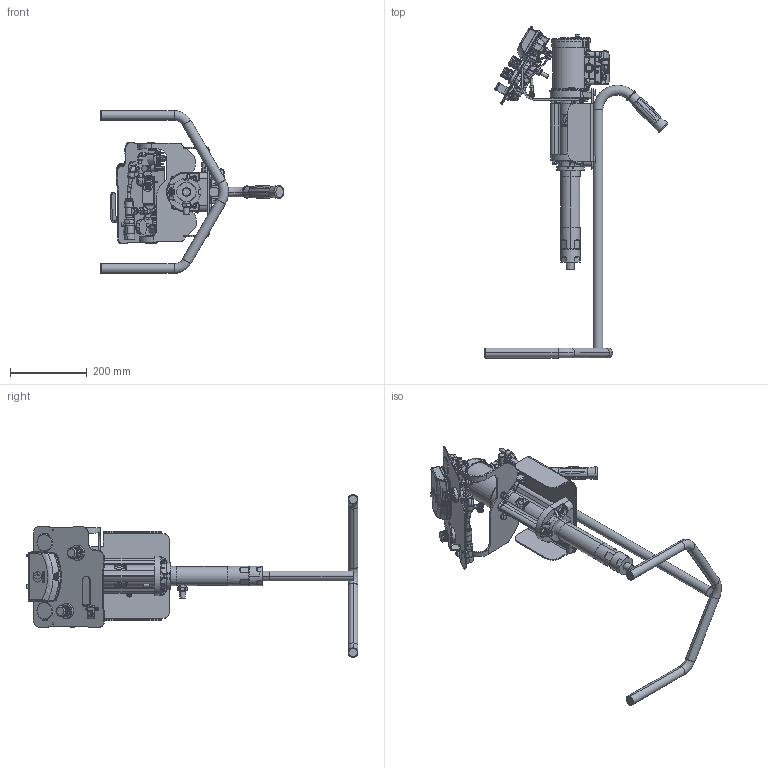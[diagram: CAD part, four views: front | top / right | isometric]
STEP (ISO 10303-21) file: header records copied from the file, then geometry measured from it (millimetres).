
FILE_DESCRIPTION((''),'2;1');
FILE_NAME('G15T01-EN-L_PRT','2020-03-05T07:51:52',('qusrh3'),(''),'CREO PARAMETRIC BY PTC INC, 2019030','CREO PARAMETRIC BY PTC INC, 2019030','');
FILE_SCHEMA(('CONFIG_CONTROL_DESIGN'));
Products named in the file (1): G15T01-EN-L_PRT
Bounding box: 479.36 x 866.05 x 425.4 mm (x, y, z)
Surface area: 920856 mm2 (no closed solid volume)
Topology: 0 solids, 328 shells, 3605 faces, 10888 edges, 7341 vertices
Faces by surface type: plane 1157, cylinder 893, bspline 662, cone 465, torus 316, extrusion 62, sphere 50
Entity records: 166089 total; most frequent: CARTESIAN_POINT 77396, ORIENTED_EDGE 17566, DIRECTION 17324, EDGE_CURVE 10855, VERTEX_POINT 7337, AXIS2_PLACEMENT_3D 6586, VECTOR 4152, LINE 4090
